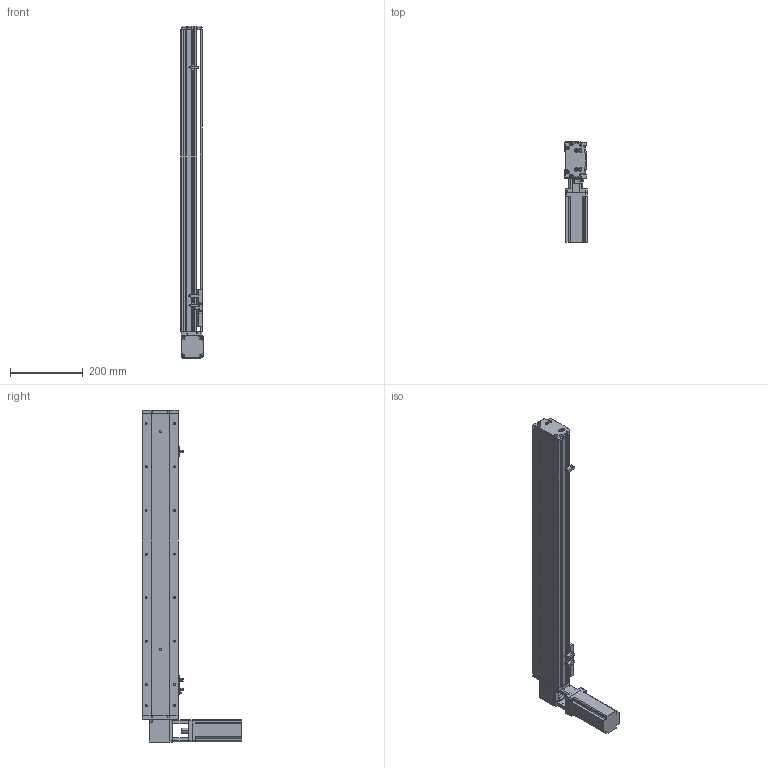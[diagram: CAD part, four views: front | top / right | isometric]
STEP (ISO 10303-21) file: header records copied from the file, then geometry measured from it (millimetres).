
FILE_DESCRIPTION (( 'STEP AP214' ), '1' );
FILE_NAME ('KSD100B-S650-MLT-CM.STEP', '2019-11-11T03:53:57', ( '微软用户' ), ( '微软中国' ), 'SwSTEP 2.0', 'SolidWorks 2014', '' );
FILE_SCHEMA (( 'AUTOMOTIVE_DESIGN' ));
Length unit declared in the file: millimetre
Products named in the file (12): 100宽马达安装板同步带右; 100宽同步带安装板半封闭; 100宽马达安装板同步带; 100遵傷啣肮祭湍; 100宽底板半封闭同步带650行程; KSD100B-S650-MLT-CM; 100宽安装板同步带带电机座400W,86; 100遵鎮湛假蚾啣1 ; 100宽防尘板650行程-同步带; U倰嫖萇EEㄜSX672; 覜茼え100遵圉猾敕; 台达ECMA－C20604AS伺服电机
Assembly tree (13 placements, depth 2):
  KSD100B-S650-MLT-CM
    100宽底板半封闭同步带650行程
    100遵傷啣肮祭湍
    100宽马达安装板同步带
    100宽同步带安装板半封闭
    100宽马达安装板同步带右
    台达ECMA－C20604AS伺服电机
    覜茼え100遵圉猾敕
    U倰嫖萇EEㄜSX672  x3
    100宽防尘板650行程-同步带
    100遵鎮湛假蚾啣1 
    100宽安装板同步带带电机座400W,86
Bounding box: 61 x 275 x 915 mm (x, y, z)
Volume: 2239333.1 mm3; surface area: 705254.3 mm2
Topology: 14 solids, 14 shells, 1372 faces, 3845 edges, 2457 vertices
Faces by surface type: cylinder 690, plane 567, cone 115
Entity records: 47433 total; most frequent: CARTESIAN_POINT 9242, DIRECTION 6657, ORIENTED_EDGE 6366, EDGE_CURVE 3183, AXIS2_PLACEMENT_3D 2442, VERTEX_POINT 2081, LINE 1773, VECTOR 1773
